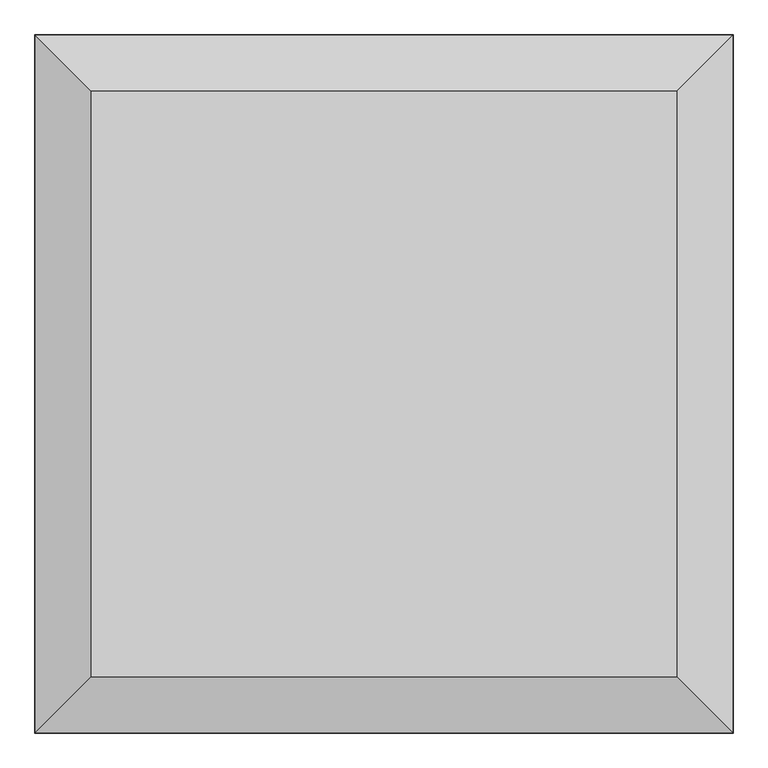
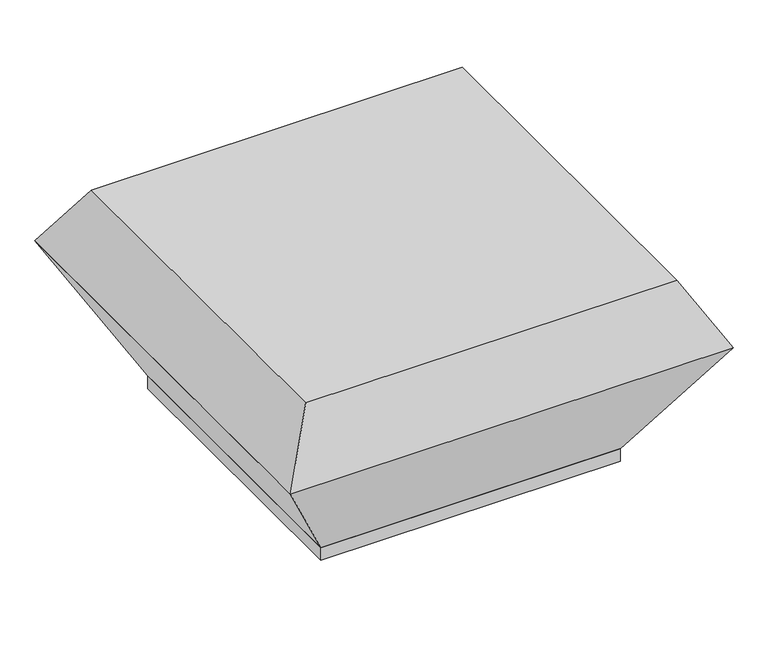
"""IFC4 building model written with IfcOpenShell, lengths in millimetres: proxy geometry."""

from ifc_helpers import new_model, si_unit, origin, origin_with_axes, place, context, project, spatial, polyline, outline, extrude, faceted_brep, source, transform, mapped, element, save


def mechanical_equipment_d0f6e731(model_context):
    return source(origin(), model_context, "Body", "SolidModel", [
        faceted_brep([(-665.5, -665.5, 415.3333333), (-665.5, 665.5, 415.3333333), (665.5, 665.5, 415.3333333), (665.5, -665.5, 415.3333333), (-557.75, -557.75, 603.0), (557.75, -557.75, 603.0), (557.75, 557.75, 603.0), (-557.75, 557.75, 603.0)], [[[0, 1, 2, 3]], [[4, 5, 6, 7]], [[5, 4, 0, 3]], [[6, 5, 3, 2]], [[7, 6, 2, 1]], [[4, 7, 1, 0]]]),
        faceted_brep([(665.5, 665.5, 415.3333333), (-665.5, 665.5, 415.3333333), (-665.5, -665.5, 415.3333333), (665.5, -665.5, 415.3333333), (450.0, 450.0, 40.0), (450.0, -450.0, 40.0), (-450.0, -450.0, 40.0), (-450.0, 450.0, 40.0)], [[[0, 1, 2, 3]], [[4, 5, 6, 7]], [[4, 7, 1, 0]], [[7, 6, 2, 1]], [[6, 5, 3, 2]], [[5, 4, 0, 3]]]),
        extrude(outline(polyline([(-450.0, -450.0), (-450.0, 450.0), (450.0, 450.0), (450.0, -450.0), (-450.0, -450.0)])), origin_with_axes(), (0.0, 0.0, 1.0), 40.0),
    ])


if __name__ == "__main__":
    model = new_model("IFC4")
    model_context = context("Model", 3, world=origin())
    ifc_project = project(units=[si_unit("LENGTHUNIT", "METRE", prefix="MILLI")], contexts=[model_context])
    site = spatial("IfcSite", under=ifc_project)
    building = spatial("IfcBuilding", under=site)
    placement = place(None, origin())
    mechanical_equipment_shape = mechanical_equipment_d0f6e731(model_context)
    element("IfcBuildingElementProxy", 1, Name="Mechanical Equipment", at=placement, inside=building, context=model_context, shape_type="MappedRepresentation", body=[
        mapped(mechanical_equipment_shape, transform((0.0, 0.0, 0.0), x_axis=(1.0, 0.0, 0.0), y_axis=(0.0, 1.0, 0.0), z_axis=(0.0, 0.0, 1.0))),
    ])
    save(model, "model.ifc")
